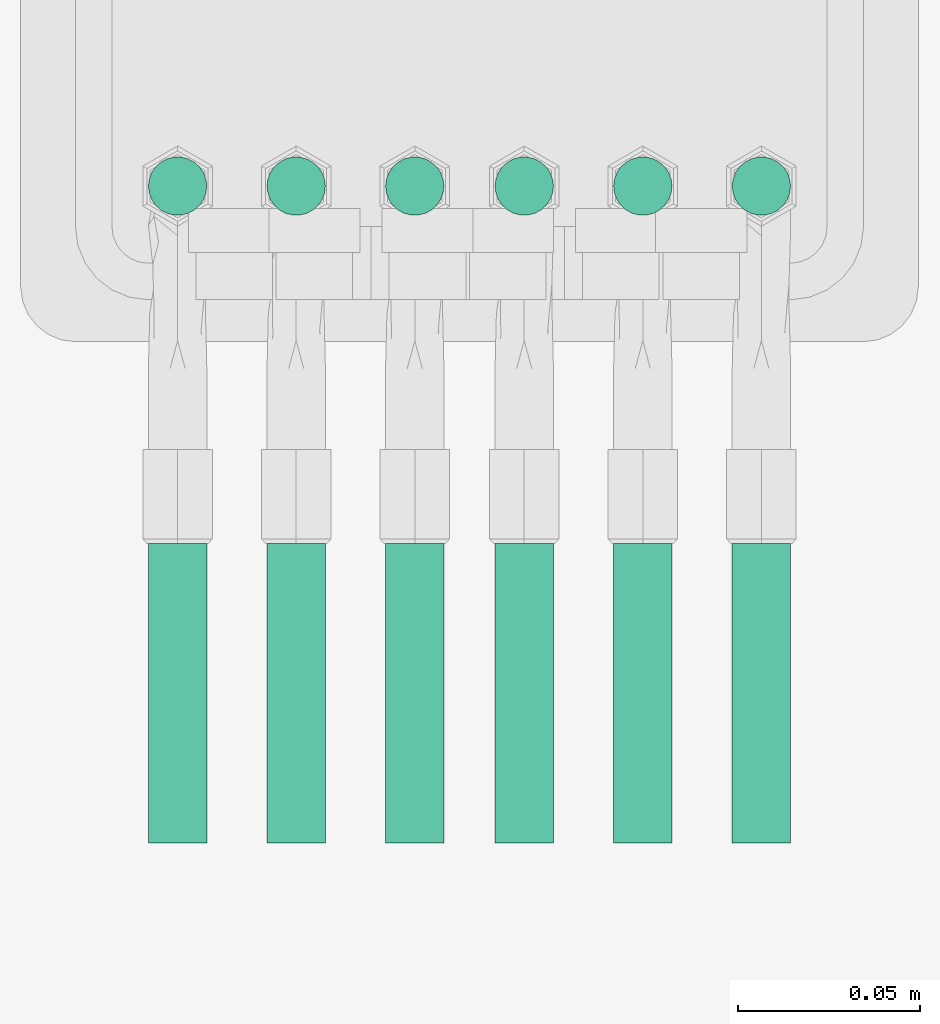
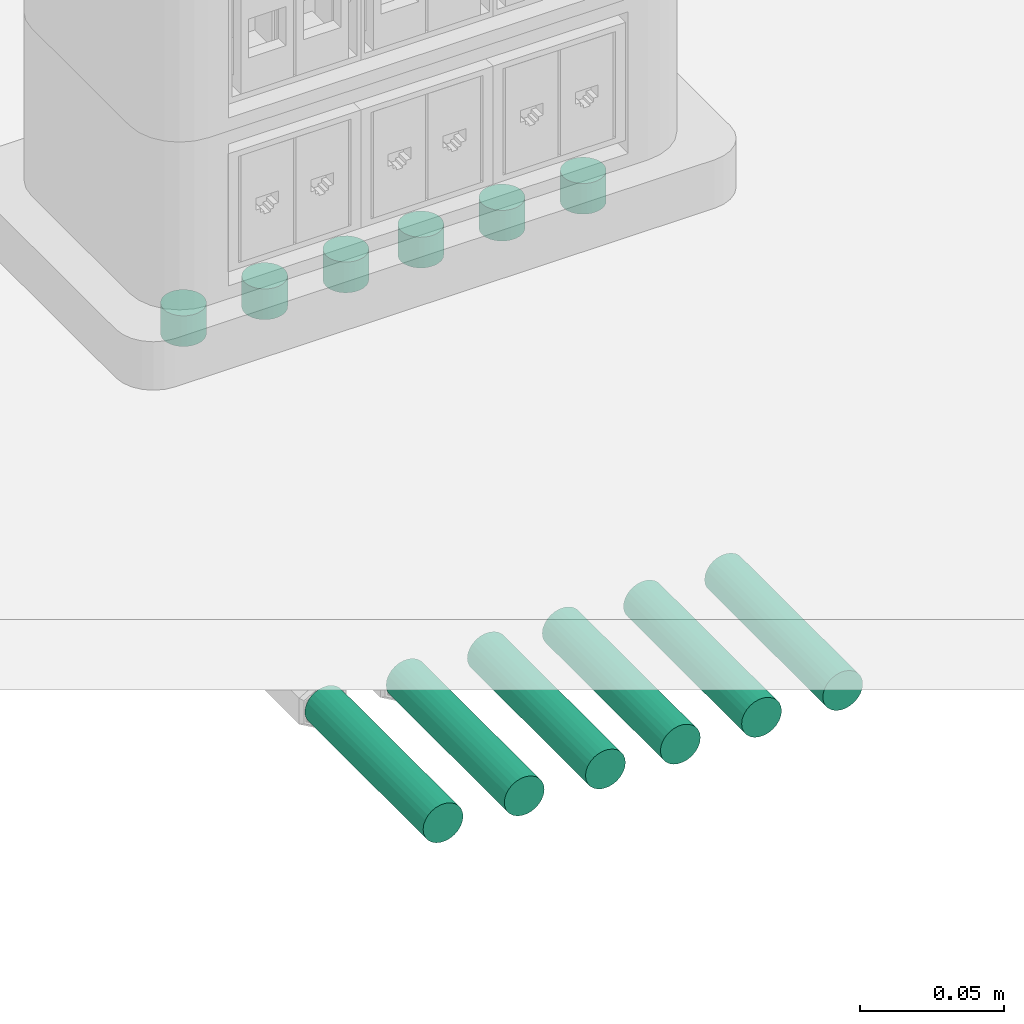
# One storey, part 16 of 87: 12 flow segments.
"""IFC2X3 building model written with IfcOpenShell, lengths in millimetres."""

import ifcopenshell
import ifcopenshell.guid

model = None  # the IFC model being written
_history = None  # IfcOwnerHistory: only IFC2X3 demands one
_inside = {}  # id of a spatial element -> (the spatial element, [elements in it])
_under = {}  # id of a project, library or spatial element -> (it, [spatial elements below it])
_declared = {}  # id of a project -> (the project, [libraries it declares])
_typed = {}  # id of a type object -> (the type object, [elements of that type])
_made_of = {}  # id of a material, layer set ... -> (it, [elements and type objects made of it])


def new_model(schema):
    """Start an empty IFC model of exactly this schema.

    Asked for "IFC4X3", IfcOpenShell would pick the latest addendum, in which some entities
    have other attributes; the version numbers below select the first issue.
    IFC2X3 requires an IfcOwnerHistory on every rooted entity: one is made here for all.
    """
    global model, _history
    if schema == "IFC4X3":
        model = ifcopenshell.file(schema_version=(4, 3, 0, 0))
    else:
        model = ifcopenshell.file(schema=schema)
    _inside.clear()
    _under.clear()
    _declared.clear()
    _typed.clear()
    _made_of.clear()
    _history = None
    if model.schema == "IFC2X3":
        org = make("IfcOrganization", Name="unknown")
        user = make(
            "IfcPersonAndOrganization",
            ThePerson=make("IfcPerson", FamilyName="unknown"),
            TheOrganization=org,
        )
        app = make(
            "IfcApplication",
            ApplicationDeveloper=org,
            Version="unknown",
            ApplicationFullName="unknown",
            ApplicationIdentifier="unknown",
        )
        _history = make(
            "IfcOwnerHistory",
            OwningUser=user,
            OwningApplication=app,
            ChangeAction="ADDED",
            CreationDate=0,
        )
    return model


def make(cls, **values):
    """One entity of the class cls with the attributes given. An attribute that is None is left unset."""
    return model.create_entity(
        cls, **{name: value for name, value in values.items() if value is not None}
    )


def entity(cls, *values):
    """Any entity or typed value of the class cls, its attributes in the order of the schema. None: left unset."""
    e = model.create_entity(cls)
    for i, value in enumerate(values):
        if value is not None:
            e[i] = value
    return e


def rooted(cls, **values):
    """An entity with a GlobalId (a new one), such as an element, a storey or a relation."""
    return make(cls, GlobalId=ifcopenshell.guid.new(), OwnerHistory=_history, **values)


def si_unit(unit_type, name, prefix=None):
    """IfcSIUnit, for example si_unit("LENGTHUNIT", "METRE", prefix="MILLI")."""
    return make("IfcSIUnit", UnitType=unit_type, Prefix=prefix, Name=name)


def converted_unit(unit_type, name, factor, base, dimensions=None, offset=None):
    """IfcConversionBasedUnit, such as the inch: factor (a typed value) times the base unit."""
    return make(
        "IfcConversionBasedUnit"
        if offset is None
        else "IfcConversionBasedUnitWithOffset",
        ConversionOffset=offset,
        Dimensions=None
        if dimensions is None
        else entity("IfcDimensionalExponents", *dimensions),
        UnitType=unit_type,
        Name=name,
        ConversionFactor=make(
            "IfcMeasureWithUnit", ValueComponent=factor, UnitComponent=base
        ),
    )


def derived_unit(unit_type, elements):
    """IfcDerivedUnit: a product of units, each with its exponent."""
    return make(
        "IfcDerivedUnit",
        Elements=[
            make("IfcDerivedUnitElement", Unit=unit, Exponent=power)
            for unit, power in elements
        ],
        UnitType=unit_type,
    )


def assignment(units):
    """IfcUnitAssignment: the units of a project."""
    return None if units is None else make("IfcUnitAssignment", Units=units)


def point(xyz):
    """IfcCartesianPoint."""
    return None if xyz is None else make("IfcCartesianPoint", Coordinates=xyz)


def direction(xyz):
    """IfcDirection."""
    return None if xyz is None else make("IfcDirection", DirectionRatios=xyz)


def frame(location, z_axis=None, x_axis=None):
    """IfcAxis2Placement3D, a coordinate frame: its origin and axes. An axis left out is left unset."""
    return make(
        "IfcAxis2Placement3D",
        Location=point(location),
        Axis=direction(z_axis),
        RefDirection=direction(x_axis),
    )


def frame_2d(location, x_axis=None):
    """IfcAxis2Placement2D, a coordinate frame in the plane: its origin and x axis."""
    return make(
        "IfcAxis2Placement2D", Location=point(location), RefDirection=direction(x_axis)
    )


def origin():
    """The frame at (0, 0, 0) with its axes left unset."""
    return frame((0.0, 0.0, 0.0))


def origin_2d_with_axis():
    """The frame at (0, 0) in the plane with the x axis (1, 0) written out."""
    return frame_2d((0.0, 0.0), x_axis=(1.0, 0.0))


def place(relative_to, where):
    """IfcLocalPlacement: puts the frame where relative to a parent placement (None: the world)."""
    return make(
        "IfcLocalPlacement", PlacementRelTo=relative_to, RelativePlacement=where
    )


def context(
    kind, dimensions, precision=None, world=None, true_north=None, identifier=None
):
    """IfcGeometricRepresentationContext, for example the 3D "Model" context."""
    return make(
        "IfcGeometricRepresentationContext",
        ContextIdentifier=identifier,
        ContextType=kind,
        CoordinateSpaceDimension=dimensions,
        Precision=precision,
        WorldCoordinateSystem=world,
        TrueNorth=true_north,
    )


def subcontext(parent, identifier, kind, view, scale=None):
    """IfcGeometricRepresentationSubContext, for example "Body" below "Model"."""
    return make(
        "IfcGeometricRepresentationSubContext",
        ContextIdentifier=identifier,
        ContextType=kind,
        ParentContext=parent,
        TargetScale=scale,
        TargetView=view,
    )


def project(units=None, contexts=None):
    """IfcProject with its units and contexts."""
    return rooted(
        "IfcProject",
        Name="project",
        RepresentationContexts=contexts,
        UnitsInContext=assignment(units),
    )


def spatial(cls, under=None, at=None, **own):
    """A site, building, storey or space (cls), placed at a placement, below another one or the project."""
    s = rooted(cls, ObjectPlacement=at, **own)
    if under is not None:
        _under.setdefault(under.id(), (under, []))[1].append(s)
    return s


def profile(cls, at=None, kind="AREA", **sizes):
    """A parametric profile (cls). Its sizes go by their IFC names, for example OverallWidth=200.0."""
    return make(cls, ProfileType=kind, Position=at, **sizes)


def circle(**sizes):
    """IfcCircleProfileDef."""
    return profile("IfcCircleProfileDef", **sizes)


def extrude(swept, where, along, depth):
    """IfcExtrudedAreaSolid: the profile swept, set in the frame where, extruded along a direction by depth."""
    return make(
        "IfcExtrudedAreaSolid",
        SweptArea=swept,
        Position=where,
        ExtrudedDirection=direction(along),
        Depth=depth,
    )


def shape(context_of_items, identifier, shape_type, items):
    """IfcShapeRepresentation: the items that make up one representation, for example the "Body"."""
    return make(
        "IfcShapeRepresentation",
        ContextOfItems=context_of_items,
        RepresentationIdentifier=identifier,
        RepresentationType=shape_type,
        Items=items,
    )


def made_of(thing, what):
    """Note that an element or type object is made of a material, layer set ...; save() writes the relation."""
    if what is not None:
        _made_of.setdefault(what.id(), (what, []))[1].append(thing)
    return thing


def type_object(cls, material=None, **own):
    """A type object (cls), such as IfcWallType, which elements share."""
    return made_of(rooted(cls, **own), material)


def element(
    cls,
    number,
    at=None,
    inside=None,
    cuts=None,
    type_object=None,
    material=None,
    context=None,
    identifier="Body",
    shape_type=None,
    held_by="IfcProductDefinitionShape",
    body=None,
    shapes=None,
    **own,
):
    """One element of the class cls, such as IfcWall. Its Tag is "e" and its number.

    at: its placement. inside: the storey or other place that contains it. cuts: it is an
    opening in that element (IfcRelVoidsElement). A single representation is given by context,
    identifier, shape_type and body (its items); several are given by shapes. held_by: the class
    of the entity that holds the representations. save() writes the other relations.
    """
    e = rooted(cls, Tag="e%d" % number, ObjectPlacement=at, **own)
    if body is not None:
        shapes = [shape(context, identifier, shape_type, body)]
    if shapes is not None:
        e.Representation = make(held_by, Representations=shapes)
    if inside is not None:
        _inside.setdefault(inside.id(), (inside, []))[1].append(e)
    if cuts is not None:
        rooted(
            "IfcRelVoidsElement", RelatingBuildingElement=cuts, RelatedOpeningElement=e
        )
    if type_object is not None:
        _typed.setdefault(type_object.id(), (type_object, []))[1].append(e)
    return made_of(e, material)


def aggregate(whole, parts):
    """IfcRelAggregates: a whole, such as a stair, and the parts it consists of."""
    return rooted("IfcRelAggregates", RelatingObject=whole, RelatedObjects=parts)


def save(model, path):
    """Write the relations noted so far, then the file.

    IfcRelAggregates (storeys below a building ...), IfcRelContainedInSpatialStructure (elements
    in a storey), IfcRelDefinesByType, IfcRelAssociatesMaterial and IfcRelDeclares: one each for
    every whole, place, type object, material and project.
    """
    for whole, parts in _under.values():
        aggregate(whole, parts)
    for where, things in _inside.values():
        rooted(
            "IfcRelContainedInSpatialStructure",
            RelatedElements=things,
            RelatingStructure=where,
        )
    for kind, things in _typed.values():
        rooted("IfcRelDefinesByType", RelatedObjects=things, RelatingType=kind)
    for what, things in _made_of.values():
        rooted("IfcRelAssociatesMaterial", RelatedObjects=things, RelatingMaterial=what)
    for by, libraries in _declared.values():
        rooted("IfcRelDeclares", RelatingContext=by, RelatedDefinitions=libraries)
    model.write(path)


model = new_model("IFC2X3")

# Units and contexts
model_context = context("Model", 3, precision=0.01, world=origin(), true_north=direction((6.12303176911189e-17, 1.0)))
body_context = subcontext(model_context, "Body", "Model", "MODEL_VIEW")
ifc_project = project(units=[si_unit("LENGTHUNIT", "METRE", prefix="MILLI"), si_unit("AREAUNIT", "SQUARE_METRE"), si_unit("VOLUMEUNIT", "CUBIC_METRE"), converted_unit("PLANEANGLEUNIT", "DEGREE", entity("IfcRatioMeasure", 0.0174532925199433), si_unit("PLANEANGLEUNIT", "RADIAN"), dimensions=[0, 0, 0, 0, 0, 0, 0]), si_unit("MASSUNIT", "GRAM", prefix="KILO"), derived_unit("MASSDENSITYUNIT", [(si_unit("MASSUNIT", "GRAM", prefix="KILO"), 1), (si_unit("LENGTHUNIT", "METRE"), -3)]), si_unit("TIMEUNIT", "SECOND"), si_unit("FREQUENCYUNIT", "HERTZ"), si_unit("THERMODYNAMICTEMPERATUREUNIT", "DEGREE_CELSIUS"), derived_unit("THERMALTRANSMITTANCEUNIT", [(si_unit("MASSUNIT", "GRAM", prefix="KILO"), 1), (si_unit("THERMODYNAMICTEMPERATUREUNIT", "KELVIN"), -1), (si_unit("TIMEUNIT", "SECOND"), -3)]), derived_unit("VOLUMETRICFLOWRATEUNIT", [(si_unit("LENGTHUNIT", "METRE"), 3), (si_unit("TIMEUNIT", "SECOND"), -1)]), si_unit("ELECTRICCURRENTUNIT", "AMPERE"), si_unit("ELECTRICVOLTAGEUNIT", "VOLT"), si_unit("POWERUNIT", "WATT"), si_unit("FORCEUNIT", "NEWTON", prefix="KILO"), si_unit("ILLUMINANCEUNIT", "LUX"), si_unit("LUMINOUSFLUXUNIT", "LUMEN"), si_unit("LUMINOUSINTENSITYUNIT", "CANDELA"), derived_unit("USERDEFINED", [(si_unit("MASSUNIT", "GRAM", prefix="KILO"), -1), (si_unit("LENGTHUNIT", "METRE"), -2), (si_unit("TIMEUNIT", "SECOND"), 3), (si_unit("LUMINOUSFLUXUNIT", "LUMEN"), 1)]), derived_unit("LINEARVELOCITYUNIT", [(si_unit("LENGTHUNIT", "METRE"), 1), (si_unit("TIMEUNIT", "SECOND"), -1)]), si_unit("PRESSUREUNIT", "PASCAL"), derived_unit("USERDEFINED", [(si_unit("LENGTHUNIT", "METRE"), -2), (si_unit("MASSUNIT", "GRAM", prefix="KILO"), 1), (si_unit("TIMEUNIT", "SECOND"), -2)])], contexts=[model_context])

# Site, building, storey
site_placement = place(None, origin())
site = spatial("IfcSite", under=ifc_project, at=site_placement, Name="Default", CompositionType="ELEMENT")
building_placement = place(site_placement, origin())
building = spatial("IfcBuilding", under=site, at=building_placement, Name="Наименование здания", CompositionType="ELEMENT")
storey_placement = place(building_placement, origin())
storey = spatial("IfcBuildingStorey", under=building, at=storey_placement, Name="Этаж 01", CompositionType="ELEMENT", Elevation=0.0)

# Flow segments
cable_carrier_segment_type = type_object("IfcCableCarrierSegmentType", Name="Короб с соединительными деталями:ADSK_Труба водогазопроводная_Стальная", PredefinedType="CONDUITSEGMENT")
flow_segment_1_placement = place(storey_placement, origin())
element("IfcFlowSegment", 1, at=flow_segment_1_placement, inside=storey, type_object=cable_carrier_segment_type, Name="Короб с соединительными деталями:ADSK_Труба водогазопроводная_Стальная", ObjectType="Короб с соединительными деталями:ADSK_Труба водогазопроводная_Стальная", context=body_context, shape_type="SweptSolid", body=[
    extrude(circle(Radius=8.0, at=frame_2d((2.16573425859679e-12, 7.81397733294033e-37), x_axis=(1.0, 0.0))), frame((-16865.7397600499, 2343.82440853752, -13.0)), (0.0, 0.0, 1.0), 13.0000000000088),
])
flow_segment_2_placement = place(storey_placement, origin())
element("IfcFlowSegment", 2, at=flow_segment_2_placement, inside=storey, type_object=cable_carrier_segment_type, Name="Короб с соединительными деталями:ADSK_Труба водогазопроводная_Стальная", ObjectType="Короб с соединительными деталями:ADSK_Труба водогазопроводная_Стальная", context=body_context, shape_type="SweptSolid", body=[
    extrude(circle(Radius=8.0, at=frame_2d((-2.16573425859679e-12, -4.38222791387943e-12), x_axis=(1.0, 0.0))), frame((-16865.7397600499, 2163.82440853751, -111.0), z_axis=(0.0, 1.0, 0.0), x_axis=(-1.0, 0.0, 0.0)), (0.0, 0.0, 1.0), 82.0000000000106),
])
flow_segment_3_placement = place(storey_placement, origin())
element("IfcFlowSegment", 3, at=flow_segment_3_placement, inside=storey, type_object=cable_carrier_segment_type, Name="Короб с соединительными деталями:ADSK_Труба водогазопроводная_Стальная", ObjectType="Короб с соединительными деталями:ADSK_Труба водогазопроводная_Стальная", context=body_context, shape_type="SweptSolid", body=[
    extrude(circle(Radius=8.0, at=frame_2d((0.0, -4.38222791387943e-12), x_axis=(1.0, 0.0))), frame((-16833.2397600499, 2163.82440853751, -111.0), z_axis=(0.0, 1.0, 0.0), x_axis=(-1.0, 0.0, 0.0)), (0.0, 0.0, 1.0), 82.0000000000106),
])
flow_segment_4_placement = place(storey_placement, origin())
element("IfcFlowSegment", 4, at=flow_segment_4_placement, inside=storey, type_object=cable_carrier_segment_type, Name="Короб с соединительными деталями:ADSK_Труба водогазопроводная_Стальная", ObjectType="Короб с соединительными деталями:ADSK_Труба водогазопроводная_Стальная", context=body_context, shape_type="SweptSolid", body=[
    extrude(circle(Radius=8.0, at=origin_2d_with_axis()), frame((-16833.2397600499, 2343.82440853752, -13.0)), (0.0, 0.0, 1.0), 13.0000000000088),
])
flow_segment_5_placement = place(storey_placement, origin())
element("IfcFlowSegment", 5, at=flow_segment_5_placement, inside=storey, type_object=cable_carrier_segment_type, Name="Короб с соединительными деталями:ADSK_Труба водогазопроводная_Стальная", ObjectType="Короб с соединительными деталями:ADSK_Труба водогазопроводная_Стальная", context=body_context, shape_type="SweptSolid", body=[
    extrude(circle(Radius=8.0, at=frame_2d((0.0, -4.41606751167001e-12), x_axis=(1.0, 0.0))), frame((-16800.7397600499, 2163.82440853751, -111.0), z_axis=(0.0, 1.0, 0.0), x_axis=(-1.0, 0.0, 0.0)), (0.0, 0.0, 1.0), 82.0000000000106),
])
flow_segment_6_placement = place(storey_placement, origin())
element("IfcFlowSegment", 6, at=flow_segment_6_placement, inside=storey, type_object=cable_carrier_segment_type, Name="Короб с соединительными деталями:ADSK_Труба водогазопроводная_Стальная", ObjectType="Короб с соединительными деталями:ADSK_Труба водогазопроводная_Стальная", context=body_context, shape_type="SweptSolid", body=[
    extrude(circle(Radius=8.0, at=origin_2d_with_axis()), frame((-16800.7397600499, 2343.82440853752, -13.0)), (0.0, 0.0, 1.0), 13.0000000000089),
])
flow_segment_7_placement = place(storey_placement, origin())
element("IfcFlowSegment", 7, at=flow_segment_7_placement, inside=storey, type_object=cable_carrier_segment_type, Name="Короб с соединительными деталями:ADSK_Труба водогазопроводная_Стальная", ObjectType="Короб с соединительными деталями:ADSK_Труба водогазопроводная_Стальная", context=body_context, shape_type="SweptSolid", body=[
    extrude(circle(Radius=8.0, at=frame_2d((-2.16573425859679e-12, -4.44990710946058e-12), x_axis=(1.0, 0.0))), frame((-16770.7397600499, 2163.82440853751, -111.0), z_axis=(0.0, 1.0, 0.0), x_axis=(-1.0, 0.0, 0.0)), (0.0, 0.0, 1.0), 82.0000000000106),
])
flow_segment_8_placement = place(storey_placement, origin())
element("IfcFlowSegment", 8, at=flow_segment_8_placement, inside=storey, type_object=cable_carrier_segment_type, Name="Короб с соединительными деталями:ADSK_Труба водогазопроводная_Стальная", ObjectType="Короб с соединительными деталями:ADSK_Труба водогазопроводная_Стальная", context=body_context, shape_type="SweptSolid", body=[
    extrude(circle(Radius=8.0, at=frame_2d((-2.16573425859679e-12, 3.90698866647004e-37), x_axis=(1.0, 0.0))), frame((-16770.7397600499, 2343.82440853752, -13.0)), (0.0, 0.0, 1.0), 13.000000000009),
])
flow_segment_9_placement = place(storey_placement, origin())
element("IfcFlowSegment", 9, at=flow_segment_9_placement, inside=storey, type_object=cable_carrier_segment_type, Name="Короб с соединительными деталями:ADSK_Труба водогазопроводная_Стальная", ObjectType="Короб с соединительными деталями:ADSK_Труба водогазопроводная_Стальная", context=body_context, shape_type="SweptSolid", body=[
    extrude(circle(Radius=8.0, at=frame_2d((0.0, -4.34838831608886e-12), x_axis=(1.0, 0.0))), frame((-16738.2397600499, 2163.82440853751, -111.0), z_axis=(0.0, 1.0, 0.0), x_axis=(-1.0, 0.0, 0.0)), (0.0, 0.0, 1.0), 82.0000000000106),
])
flow_segment_10_placement = place(storey_placement, origin())
element("IfcFlowSegment", 10, at=flow_segment_10_placement, inside=storey, type_object=cable_carrier_segment_type, Name="Короб с соединительными деталями:ADSK_Труба водогазопроводная_Стальная", ObjectType="Короб с соединительными деталями:ADSK_Труба водогазопроводная_Стальная", context=body_context, shape_type="SweptSolid", body=[
    extrude(circle(Radius=8.0, at=origin_2d_with_axis()), frame((-16738.2397600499, 2343.82440853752, -13.0)), (0.0, 0.0, 1.0), 13.0000000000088),
])
flow_segment_11_placement = place(storey_placement, origin())
element("IfcFlowSegment", 11, at=flow_segment_11_placement, inside=storey, type_object=cable_carrier_segment_type, Name="Короб с соединительными деталями:ADSK_Труба водогазопроводная_Стальная", ObjectType="Короб с соединительными деталями:ADSK_Труба водогазопроводная_Стальная", context=body_context, shape_type="SweptSolid", body=[
    extrude(circle(Radius=8.0, at=frame_2d((0.0, -4.34838831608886e-12), x_axis=(1.0, 0.0))), frame((-16705.7397600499, 2163.82440853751, -111.0), z_axis=(0.0, 1.0, 0.0), x_axis=(-1.0, 0.0, 0.0)), (0.0, 0.0, 1.0), 82.0000000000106),
])
flow_segment_12_placement = place(storey_placement, origin())
element("IfcFlowSegment", 12, at=flow_segment_12_placement, inside=storey, type_object=cable_carrier_segment_type, Name="Короб с соединительными деталями:ADSK_Труба водогазопроводная_Стальная", ObjectType="Короб с соединительными деталями:ADSK_Труба водогазопроводная_Стальная", context=body_context, shape_type="SweptSolid", body=[
    extrude(circle(Radius=8.0, at=origin_2d_with_axis()), frame((-16705.7397600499, 2343.82440853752, -13.0)), (0.0, 0.0, 1.0), 13.0000000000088),
])

save(model, "model.ifc")
